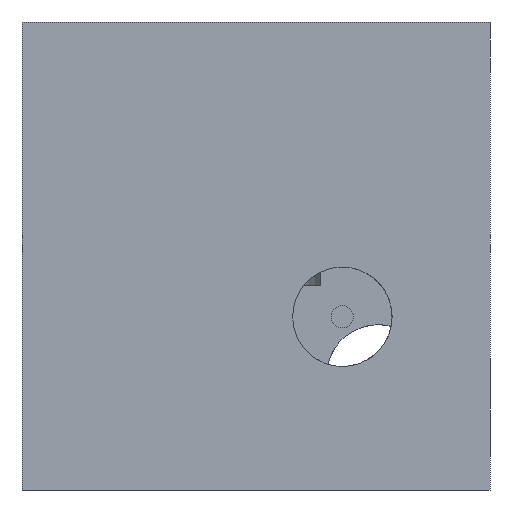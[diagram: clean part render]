
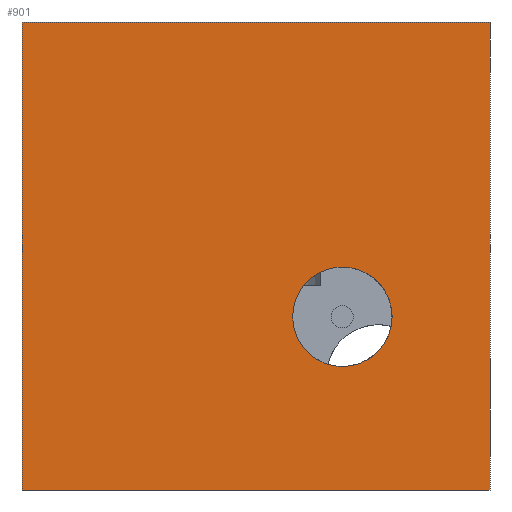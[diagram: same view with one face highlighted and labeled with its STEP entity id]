
A CAD part, front view. The second image highlights one B-rep face of the part: STEP entity #901.
In plain terms, the highlighted planar face has unit normal (0, -1, 0).
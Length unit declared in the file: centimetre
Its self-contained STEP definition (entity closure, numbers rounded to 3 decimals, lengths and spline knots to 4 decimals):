
#19 = EDGE_LOOP ( 'NONE', ( #976, #415, #514, #961 ) ) ;
#37 = EDGE_CURVE ( 'NONE', #187, #521, #108, .T. ) ;
#69 = LINE ( 'NONE', #1358, #741 ) ;
#76 = ORIENTED_EDGE ( 'NONE', *, *, #686, .F. ) ;
#108 = LINE ( 'NONE', #772, #1075 ) ;
#113 = DIRECTION ( 'NONE',  ( 0., -1., 0. ) ) ;
#117 = AXIS2_PLACEMENT_3D ( 'NONE', #1408, #244, #135 ) ;
#135 = DIRECTION ( 'NONE',  ( 0., 0., 1. ) ) ;
#159 = AXIS2_PLACEMENT_3D ( 'NONE', #1270, #113, #1279 ) ;
#187 = VERTEX_POINT ( 'NONE', #481 ) ;
#244 = DIRECTION ( 'NONE',  ( 0., 1., 0. ) ) ;
#291 = VECTOR ( 'NONE', #666, 100. ) ;
#392 = VERTEX_POINT ( 'NONE', #929 ) ;
#415 = ORIENTED_EDGE ( 'NONE', *, *, #37, .F. ) ;
#425 = DIRECTION ( 'NONE',  ( 0., -1., 0. ) ) ;
#432 = DIRECTION ( 'NONE',  ( 1., 0., 0. ) ) ;
#435 = VERTEX_POINT ( 'NONE', #732 ) ;
#445 = CARTESIAN_POINT ( 'NONE',  ( 0., 0., 1000. ) ) ;
#481 = CARTESIAN_POINT ( 'NONE',  ( 1000., 0., 1000. ) ) ;
#514 = ORIENTED_EDGE ( 'NONE', *, *, #1177, .F. ) ;
#521 = VERTEX_POINT ( 'NONE', #1479 ) ;
#538 = CARTESIAN_POINT ( 'NONE',  ( 684.5435, 0., 370.0918 ) ) ;
#579 = PLANE ( 'NONE',  #117 ) ;
#636 = VERTEX_POINT ( 'NONE', #682 ) ;
#666 = DIRECTION ( 'NONE',  ( 1., 0., 0. ) ) ;
#682 = CARTESIAN_POINT ( 'NONE',  ( 0., 0., 0. ) ) ;
#686 = EDGE_CURVE ( 'NONE', #435, #392, #1430, .T. ) ;
#732 = CARTESIAN_POINT ( 'NONE',  ( 684.5435, 0., 476.3706 ) ) ;
#741 = VECTOR ( 'NONE', #1250, 100. ) ;
#772 = CARTESIAN_POINT ( 'NONE',  ( 1000., 0., 1000. ) ) ;
#777 = LINE ( 'NONE', #1486, #1498 ) ;
#811 = FACE_BOUND ( 'NONE', #865, .T. ) ;
#820 = FACE_OUTER_BOUND ( 'NONE', #19, .T. ) ;
#865 = EDGE_LOOP ( 'NONE', ( #1365, #76 ) ) ;
#869 = CIRCLE ( 'NONE', #1496, 106.2788 ) ;
#892 = CARTESIAN_POINT ( 'NONE',  ( 0., 0., 1000. ) ) ;
#901 = ADVANCED_FACE ( 'NONE', ( #811, #820 ), #579, .F. ) ;
#929 = CARTESIAN_POINT ( 'NONE',  ( 684.5435, 0., 263.8129 ) ) ;
#935 = EDGE_CURVE ( 'NONE', #1165, #636, #69, .T. ) ;
#961 = ORIENTED_EDGE ( 'NONE', *, *, #935, .T. ) ;
#976 = ORIENTED_EDGE ( 'NONE', *, *, #1170, .T. ) ;
#1075 = VECTOR ( 'NONE', #1263, 100. ) ;
#1139 = DIRECTION ( 'NONE',  ( 0., 0., -1. ) ) ;
#1147 = EDGE_CURVE ( 'NONE', #392, #435, #869, .T. ) ;
#1165 = VERTEX_POINT ( 'NONE', #445 ) ;
#1170 = EDGE_CURVE ( 'NONE', #636, #521, #777, .T. ) ;
#1177 = EDGE_CURVE ( 'NONE', #1165, #187, #1497, .T. ) ;
#1250 = DIRECTION ( 'NONE',  ( 0., 0., -1. ) ) ;
#1263 = DIRECTION ( 'NONE',  ( 0., 0., -1. ) ) ;
#1270 = CARTESIAN_POINT ( 'NONE',  ( 684.5435, 0., 370.0918 ) ) ;
#1279 = DIRECTION ( 'NONE',  ( 0., 0., -1. ) ) ;
#1358 = CARTESIAN_POINT ( 'NONE',  ( 0., 0., 1000. ) ) ;
#1365 = ORIENTED_EDGE ( 'NONE', *, *, #1147, .F. ) ;
#1408 = CARTESIAN_POINT ( 'NONE',  ( 0., 0., 1000. ) ) ;
#1430 = CIRCLE ( 'NONE', #159, 106.2788 ) ;
#1479 = CARTESIAN_POINT ( 'NONE',  ( 1000., 0., 0. ) ) ;
#1486 = CARTESIAN_POINT ( 'NONE',  ( 0., 0., 0. ) ) ;
#1496 = AXIS2_PLACEMENT_3D ( 'NONE', #538, #425, #1139 ) ;
#1497 = LINE ( 'NONE', #892, #291 ) ;
#1498 = VECTOR ( 'NONE', #432, 100. ) ;
